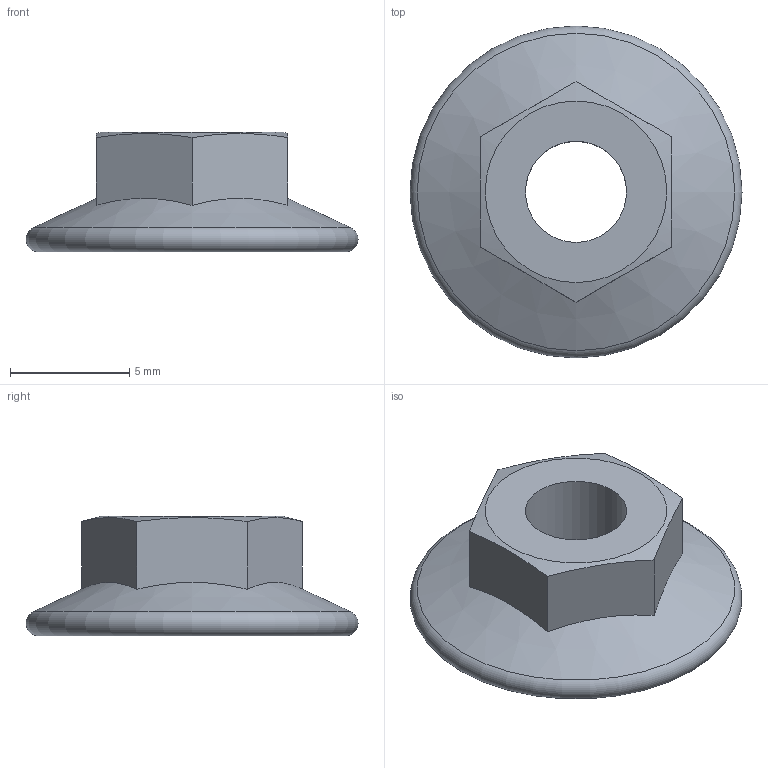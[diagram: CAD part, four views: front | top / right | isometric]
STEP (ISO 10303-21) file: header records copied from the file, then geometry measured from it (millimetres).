
FILE_DESCRIPTION(/* description */ (''),/* implementation_level */ '2;1');
FILE_NAME(/* name */ 'M5 Serrated Flanged Hexagon Nut - DIN 6923 - A2 Stainless Steel.step',/* time_stamp */ '2024-06-27T11:34:32+03:00',/* author */ (''),/* organization */ (''),/* preprocessor_version */ 'ST-DEVELOPER v20',/* originating_system */ 'Autodesk Translation Framework v13.14.0.145',/* authorisation */ '');
FILE_SCHEMA (('AUTOMOTIVE_DESIGN { 1 0 10303 214 3 1 1 }'));
Length unit declared in the file: millimetre
Products named in the file (2): M5 Serrated Flanged Hexagon Nut - DIN 6923 - A2 Stainless Steel; Hexagon Nut DIN 6923 - M5 x 0.8 Stainless Steel A2 Plain v1
Assembly tree (1 placements, depth 2):
  M5 Serrated Flanged Hexagon Nut - DIN 6923 - A2 Stainless Steel
    Hexagon Nut DIN 6923 - M5 x 0.8 Stainless Steel A2 Plain v1
Bounding box: 13.9 x 13.9 x 5 mm (x, y, z)
Volume: 342.2 mm3; surface area: 452.7 mm2
Topology: 1 solids, 1 shells, 12 faces, 29 edges, 19 vertices
Faces by surface type: plane 8, cone 2, torus 1, cylinder 1
Full cylindrical faces by diameter (mm): 4.234 x1
Entity records: 403 total; most frequent: CARTESIAN_POINT 89, ORIENTED_EDGE 58, DIRECTION 53, EDGE_CURVE 29, AXIS2_PLACEMENT_3D 22, VERTEX_POINT 19, EDGE_LOOP 14, FACE_OUTER_BOUND 12
